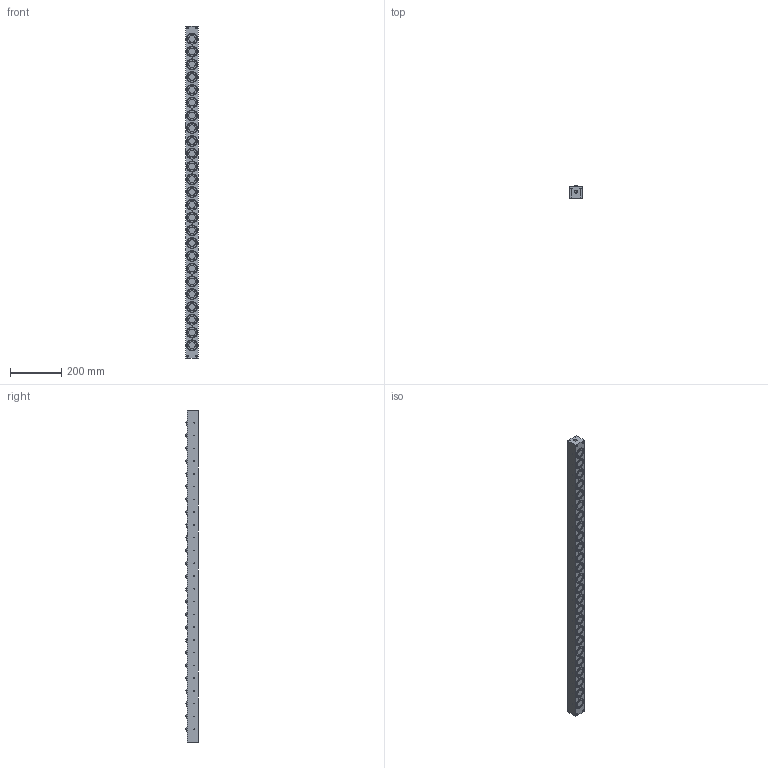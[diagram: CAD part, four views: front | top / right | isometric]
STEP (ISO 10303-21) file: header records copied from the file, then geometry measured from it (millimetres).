
FILE_DESCRIPTION (( 'STEP AP203' ), '1' );
FILE_NAME ('PVL55SW-25.STEP', '2016-02-18T08:37:20', ( '' ), ( '' ), 'SwSTEP 2.0', 'SolidWorks 2013', '' );
FILE_SCHEMA (( 'CONFIG_CONTROL_DESIGN' ));
Length unit declared in the file: millimetre
Products named in the file (1): PVL55SW-25
Bounding box: 49 x 50 x 1300 mm (x, y, z)
Volume: 2757093.1 mm3; surface area: 319203.8 mm2
Topology: 2 solids, 2 shells, 1173 faces, 2735 edges, 1745 vertices
Faces by surface type: cylinder 722, plane 295, cone 106, sphere 50
Entity records: 33558 total; most frequent: DIRECTION 6577, CARTESIAN_POINT 5550, ORIENTED_EDGE 5262, AXIS2_PLACEMENT_3D 2772, EDGE_CURVE 2631, VERTEX_POINT 1745, CIRCLE 1598, EDGE_LOOP 1464
